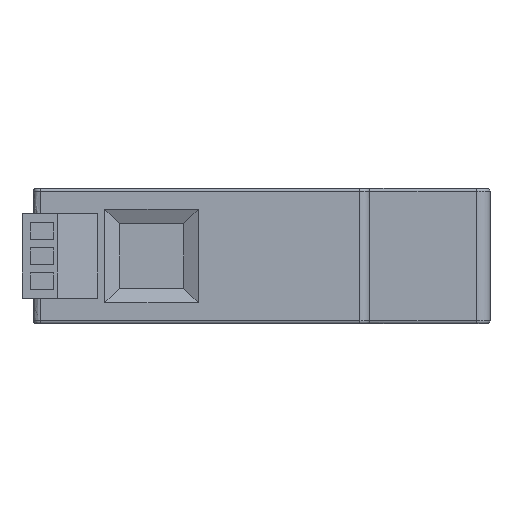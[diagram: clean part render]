
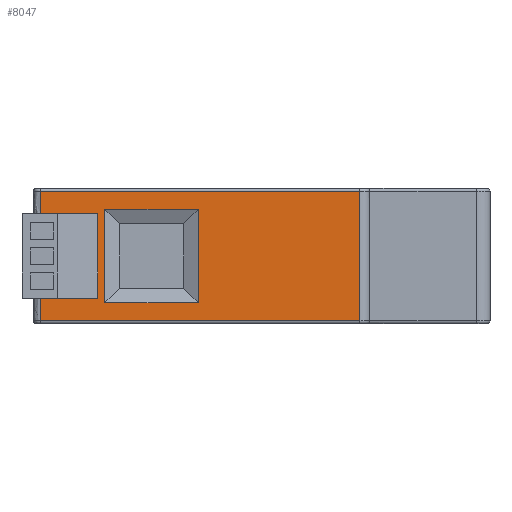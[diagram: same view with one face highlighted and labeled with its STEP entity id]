
A CAD part, left-side view. The second image highlights one B-rep face of the part: STEP entity #8047.
In plain terms, the highlighted planar face has unit normal (-1, 0, 0).
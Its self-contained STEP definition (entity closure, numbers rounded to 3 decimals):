
#13 = LINE ( 'NONE', #6753, #5650 ) ;
#51 = VERTEX_POINT ( 'NONE', #7364 ) ;
#215 = CARTESIAN_POINT ( 'NONE',  ( -45., 9.405, 3.055 ) ) ;
#225 = CARTESIAN_POINT ( 'NONE',  ( -45., 32.75, 0.4 ) ) ;
#234 = DIRECTION ( 'NONE',  ( 0., 1., 0. ) ) ;
#526 = LINE ( 'NONE', #11351, #3336 ) ;
#682 = VECTOR ( 'NONE', #3539, 1000. ) ;
#852 = VERTEX_POINT ( 'NONE', #6561 ) ;
#1219 = EDGE_CURVE ( 'NONE', #1467, #852, #13658, .T. ) ;
#1467 = VERTEX_POINT ( 'NONE', #5019 ) ;
#1644 = VERTEX_POINT ( 'NONE', #5347 ) ;
#1690 = DIRECTION ( 'NONE',  ( 0., 0., -1. ) ) ;
#1826 = VECTOR ( 'NONE', #10295, 1000. ) ;
#1941 = LINE ( 'NONE', #12781, #12518 ) ;
#1944 = CARTESIAN_POINT ( 'NONE',  ( -45., 32.75, 16.3 ) ) ;
#2186 = VECTOR ( 'NONE', #11064, 1000. ) ;
#2195 = LINE ( 'NONE', #8421, #7814 ) ;
#2511 = LINE ( 'NONE', #4728, #13427 ) ;
#2585 = VERTEX_POINT ( 'NONE', #215 ) ;
#2586 = CARTESIAN_POINT ( 'NONE',  ( -45., 32.75, 3.75 ) ) ;
#3068 = FACE_OUTER_BOUND ( 'NONE', #8944, .T. ) ;
#3274 = EDGE_CURVE ( 'NONE', #7975, #13073, #4177, .T. ) ;
#3336 = VECTOR ( 'NONE', #9254, 1000. ) ;
#3413 = FACE_BOUND ( 'NONE', #10478, .T. ) ;
#3539 = DIRECTION ( 'NONE',  ( 0., 0., -1. ) ) ;
#3864 = ORIENTED_EDGE ( 'NONE', *, *, #12634, .F. ) ;
#3953 = CARTESIAN_POINT ( 'NONE',  ( -45., 26.05, 20. ) ) ;
#3963 = EDGE_CURVE ( 'NONE', #12982, #9737, #5332, .T. ) ;
#4087 = ORIENTED_EDGE ( 'NONE', *, *, #1219, .T. ) ;
#4177 = LINE ( 'NONE', #11277, #7317 ) ;
#4662 = EDGE_CURVE ( 'NONE', #8163, #12982, #526, .T. ) ;
#4681 = DIRECTION ( 'NONE',  ( 0., 0., -1. ) ) ;
#4697 = CARTESIAN_POINT ( 'NONE',  ( -45., 9.405, 16.945 ) ) ;
#4728 = CARTESIAN_POINT ( 'NONE',  ( -45., 9.405, 5.2 ) ) ;
#4854 = LINE ( 'NONE', #1944, #10148 ) ;
#4937 = VERTEX_POINT ( 'NONE', #8524 ) ;
#4940 = DIRECTION ( 'NONE',  ( 0., -1., 0. ) ) ;
#5007 = CARTESIAN_POINT ( 'NONE',  ( -45., 23.195, 3.055 ) ) ;
#5019 = CARTESIAN_POINT ( 'NONE',  ( -45., -14.45, 19.6 ) ) ;
#5032 = AXIS2_PLACEMENT_3D ( 'NONE', #6943, #8009, #1690 ) ;
#5121 = ORIENTED_EDGE ( 'NONE', *, *, #11959, .T. ) ;
#5332 = LINE ( 'NONE', #7854, #2186 ) ;
#5347 = CARTESIAN_POINT ( 'NONE',  ( -45., 32.75, 16.3 ) ) ;
#5446 = ORIENTED_EDGE ( 'NONE', *, *, #10068, .T. ) ;
#5650 = VECTOR ( 'NONE', #4681, 1000. ) ;
#5793 = DIRECTION ( 'NONE',  ( 0., 0., -1. ) ) ;
#5796 = ORIENTED_EDGE ( 'NONE', *, *, #11874, .T. ) ;
#5943 = ORIENTED_EDGE ( 'NONE', *, *, #3963, .T. ) ;
#6490 = VERTEX_POINT ( 'NONE', #2586 ) ;
#6530 = ORIENTED_EDGE ( 'NONE', *, *, #6898, .T. ) ;
#6561 = CARTESIAN_POINT ( 'NONE',  ( -45., 32.75, 19.6 ) ) ;
#6719 = PLANE ( 'NONE',  #5032 ) ;
#6753 = CARTESIAN_POINT ( 'NONE',  ( -45., -14.45, 20. ) ) ;
#6898 = EDGE_CURVE ( 'NONE', #2585, #8163, #1941, .T. ) ;
#6943 = CARTESIAN_POINT ( 'NONE',  ( -45., 32.75, 20. ) ) ;
#7098 = LINE ( 'NONE', #3953, #1826 ) ;
#7196 = DIRECTION ( 'NONE',  ( 0., 1., 0. ) ) ;
#7317 = VECTOR ( 'NONE', #4940, 1000. ) ;
#7364 = CARTESIAN_POINT ( 'NONE',  ( -45., 26.05, 3.75 ) ) ;
#7586 = EDGE_CURVE ( 'NONE', #51, #6490, #8032, .T. ) ;
#7762 = ORIENTED_EDGE ( 'NONE', *, *, #11956, .F. ) ;
#7814 = VECTOR ( 'NONE', #11574, 1000. ) ;
#7854 = CARTESIAN_POINT ( 'NONE',  ( -45., 11.55, 16.945 ) ) ;
#7975 = VERTEX_POINT ( 'NONE', #225 ) ;
#8009 = DIRECTION ( 'NONE',  ( 1., 0., 0. ) ) ;
#8032 = LINE ( 'NONE', #13571, #11515 ) ;
#8047 = ADVANCED_FACE ( 'NONE', ( #3413, #3068 ), #6719, .F. ) ;
#8163 = VERTEX_POINT ( 'NONE', #5007 ) ;
#8421 = CARTESIAN_POINT ( 'NONE',  ( -45., 32.75, 20. ) ) ;
#8524 = CARTESIAN_POINT ( 'NONE',  ( -45., 26.05, 16.3 ) ) ;
#8944 = EDGE_LOOP ( 'NONE', ( #3864, #12797, #5446, #12942, #7762, #4087, #5796, #11536 ) ) ;
#9183 = EDGE_CURVE ( 'NONE', #4937, #1644, #4854, .T. ) ;
#9254 = DIRECTION ( 'NONE',  ( 0., 0., 1. ) ) ;
#9473 = ORIENTED_EDGE ( 'NONE', *, *, #4662, .T. ) ;
#9736 = CARTESIAN_POINT ( 'NONE',  ( -45., 32.75, 19.6 ) ) ;
#9737 = VERTEX_POINT ( 'NONE', #4697 ) ;
#10068 = EDGE_CURVE ( 'NONE', #6490, #7975, #2195, .T. ) ;
#10148 = VECTOR ( 'NONE', #10392, 1000. ) ;
#10295 = DIRECTION ( 'NONE',  ( 0., 0., 1. ) ) ;
#10392 = DIRECTION ( 'NONE',  ( 0., 1., 0. ) ) ;
#10478 = EDGE_LOOP ( 'NONE', ( #5943, #5121, #6530, #9473 ) ) ;
#10932 = CARTESIAN_POINT ( 'NONE',  ( -45., 32.75, 20. ) ) ;
#11064 = DIRECTION ( 'NONE',  ( 0., -1., 0. ) ) ;
#11178 = CARTESIAN_POINT ( 'NONE',  ( -45., -14.45, 0.4 ) ) ;
#11277 = CARTESIAN_POINT ( 'NONE',  ( -45., -14.45, 0.4 ) ) ;
#11351 = CARTESIAN_POINT ( 'NONE',  ( -45., 23.195, 20. ) ) ;
#11515 = VECTOR ( 'NONE', #7196, 1000. ) ;
#11536 = ORIENTED_EDGE ( 'NONE', *, *, #9183, .F. ) ;
#11574 = DIRECTION ( 'NONE',  ( 0., 0., -1. ) ) ;
#11598 = LINE ( 'NONE', #10932, #682 ) ;
#11874 = EDGE_CURVE ( 'NONE', #852, #1644, #11598, .T. ) ;
#11956 = EDGE_CURVE ( 'NONE', #1467, #13073, #13, .T. ) ;
#11959 = EDGE_CURVE ( 'NONE', #9737, #2585, #2511, .T. ) ;
#12100 = CARTESIAN_POINT ( 'NONE',  ( -45., 23.195, 16.945 ) ) ;
#12518 = VECTOR ( 'NONE', #12870, 1000. ) ;
#12634 = EDGE_CURVE ( 'NONE', #51, #4937, #7098, .T. ) ;
#12781 = CARTESIAN_POINT ( 'NONE',  ( -45., 32.75, 3.055 ) ) ;
#12797 = ORIENTED_EDGE ( 'NONE', *, *, #7586, .T. ) ;
#12870 = DIRECTION ( 'NONE',  ( 0., 1., 0. ) ) ;
#12942 = ORIENTED_EDGE ( 'NONE', *, *, #3274, .T. ) ;
#12982 = VERTEX_POINT ( 'NONE', #12100 ) ;
#13073 = VERTEX_POINT ( 'NONE', #11178 ) ;
#13329 = VECTOR ( 'NONE', #234, 1000. ) ;
#13427 = VECTOR ( 'NONE', #5793, 1000. ) ;
#13571 = CARTESIAN_POINT ( 'NONE',  ( -45., 32.75, 3.75 ) ) ;
#13658 = LINE ( 'NONE', #9736, #13329 ) ;
